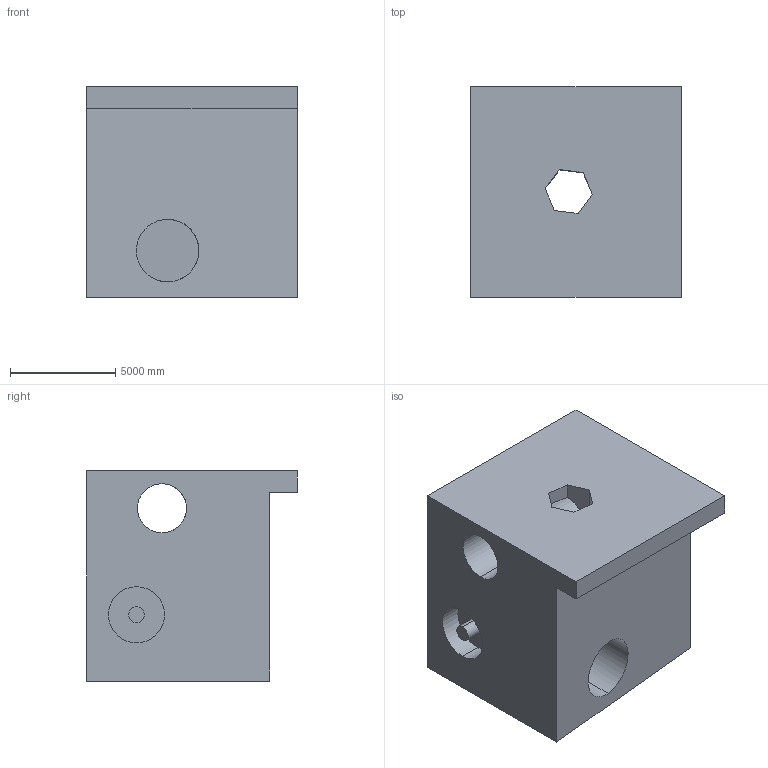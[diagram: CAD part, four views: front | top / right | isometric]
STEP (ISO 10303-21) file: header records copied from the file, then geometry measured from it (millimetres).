
FILE_DESCRIPTION (( 'STEP AP203' ), '1' );
FILE_NAME ('1489.STEP', '2022-08-26T10:20:14', ( 'user' ), ( '' ), 'SwSTEP 2.0', 'SolidWorks 2021', '' );
FILE_SCHEMA (( 'CONFIG_CONTROL_DESIGN' ));
Length unit declared in the file: centimetre
Products named in the file (1): 1489
Bounding box: 10000 x 10000 x 10000 mm (x, y, z)
Volume: 730082843380.9 mm3; surface area: 722359572.5 mm2
Topology: 1 solids, 1 shells, 30 faces, 84 edges, 56 vertices
Faces by surface type: plane 21, cylinder 9
Entity records: 1055 total; most frequent: CARTESIAN_POINT 225, ORIENTED_EDGE 168, DIRECTION 142, EDGE_CURVE 84, VERTEX_POINT 56, LINE 52, VECTOR 52, AXIS2_PLACEMENT_3D 45
